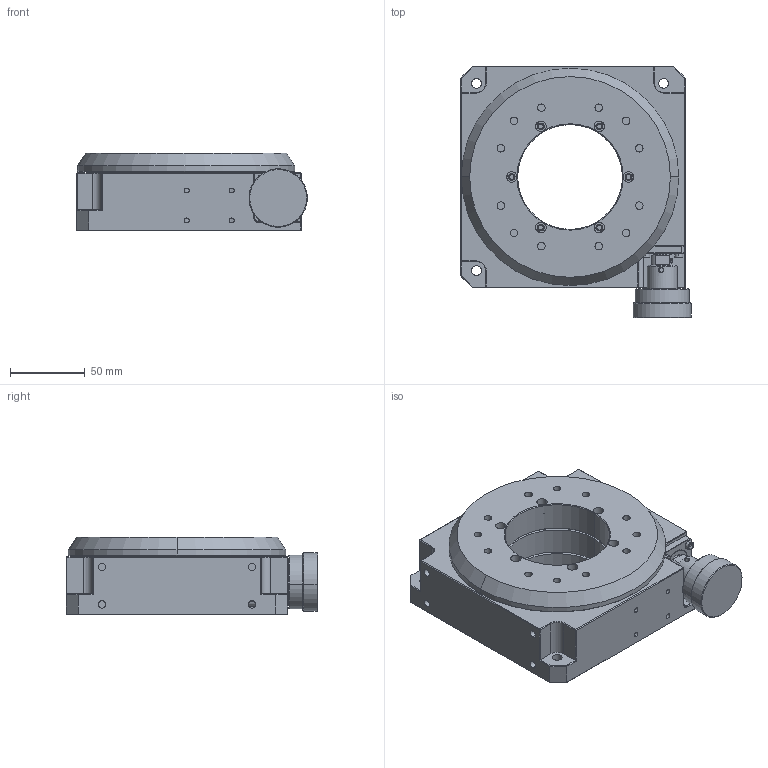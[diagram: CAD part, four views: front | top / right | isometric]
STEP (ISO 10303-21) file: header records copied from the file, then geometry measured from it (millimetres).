
FILE_DESCRIPTION (( 'STEP AP203' ), '1' );
FILE_NAME ('手动旋转台：R1R150H-O-180.STEP', '2024-04-24T06:19:52', ( '' ), ( '' ), 'SwSTEP 2.0', 'SolidWorks 2016', '' );
FILE_SCHEMA (( 'CONFIG_CONTROL_DESIGN' ));
Length unit declared in the file: millimetre
Products named in the file (1): 手动旋转台：R1R150H-O-180
Bounding box: 153.93 x 168 x 52 mm (x, y, z)
Surface area: 96385.1 mm2 (no closed solid volume)
Topology: 0 solids, 13 shells, 281 faces, 849 edges, 569 vertices
Faces by surface type: cylinder 129, plane 114, cone 32, torus 6
Entity records: 10217 total; most frequent: CARTESIAN_POINT 2309, DIRECTION 1765, ORIENTED_EDGE 1399, EDGE_CURVE 843, AXIS2_PLACEMENT_3D 679, VERTEX_POINT 569, VECTOR 407, LINE 407
